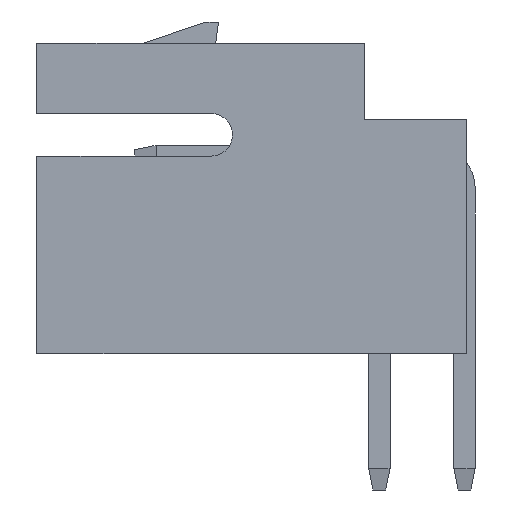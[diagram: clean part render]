
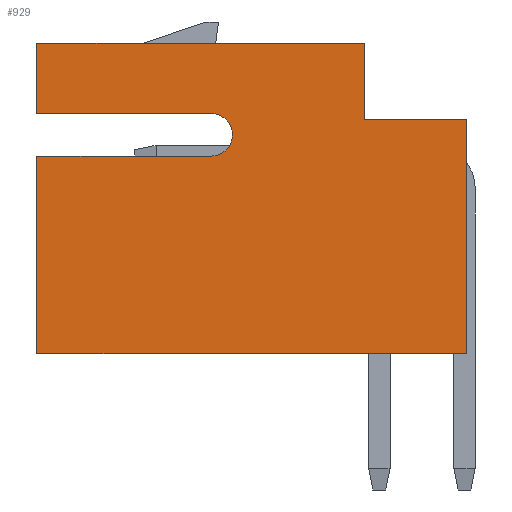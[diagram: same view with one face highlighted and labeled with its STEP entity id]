
A CAD part, left-side view. The second image highlights one B-rep face of the part: STEP entity #929.
In plain terms, the highlighted planar face has unit normal (-1, 0, 0).
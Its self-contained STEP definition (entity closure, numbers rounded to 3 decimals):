
#172=CARTESIAN_POINT('Vertex',(-10.,-2.4,-1.8)) ;
#175=CARTESIAN_POINT('Line Origine',(-10.,-2.4,-4.55)) ;
#179=CARTESIAN_POINT('Vertex',(-10.,-2.4,-7.3)) ;
#198=CARTESIAN_POINT('Vertex',(-10.,0.,-1.8)) ;
#201=CARTESIAN_POINT('Line Origine',(-10.,-1.2,-1.8)) ;
#229=CARTESIAN_POINT('Vertex',(-10.,0.,0.)) ;
#232=CARTESIAN_POINT('Line Origine',(-10.,0.,-0.9)) ;
#865=CARTESIAN_POINT('Axis2P3D Location',(-10.,0.,0.)) ;
#870=CARTESIAN_POINT('Line Origine',(-10.,2.65,-7.3)) ;
#874=CARTESIAN_POINT('Vertex',(-10.,7.7,-7.3)) ;
#877=CARTESIAN_POINT('Line Origine',(-10.,3.85,0.)) ;
#881=CARTESIAN_POINT('Vertex',(-10.,7.7,0.)) ;
#884=CARTESIAN_POINT('Line Origine',(-10.,7.7,-0.825)) ;
#888=CARTESIAN_POINT('Vertex',(-10.,7.7,-1.65)) ;
#891=CARTESIAN_POINT('Line Origine',(-10.,5.65,-1.65)) ;
#895=CARTESIAN_POINT('Vertex',(-10.,3.6,-1.65)) ;
#898=CARTESIAN_POINT('Axis2P3D Location',(-10.,3.6,-2.15)) ;
#902=CARTESIAN_POINT('Vertex',(-10.,3.6,-2.65)) ;
#905=CARTESIAN_POINT('Line Origine',(-10.,5.65,-2.65)) ;
#909=CARTESIAN_POINT('Vertex',(-10.,7.7,-2.65)) ;
#912=CARTESIAN_POINT('Line Origine',(-10.,7.7,-4.975)) ;
#176=DIRECTION('Vector Direction',(0.,0.,-1.)) ;
#202=DIRECTION('Vector Direction',(0.,1.,0.)) ;
#233=DIRECTION('Vector Direction',(0.,0.,1.)) ;
#866=DIRECTION('Axis2P3D Direction',(1.,0.,0.)) ;
#867=DIRECTION('Axis2P3D XDirection',(-0.,-0.,-1.)) ;
#871=DIRECTION('Vector Direction',(0.,-1.,0.)) ;
#878=DIRECTION('Vector Direction',(0.,1.,0.)) ;
#885=DIRECTION('Vector Direction',(0.,0.,-1.)) ;
#892=DIRECTION('Vector Direction',(0.,-1.,0.)) ;
#899=DIRECTION('Axis2P3D Direction',(1.,0.,0.)) ;
#906=DIRECTION('Vector Direction',(0.,1.,0.)) ;
#913=DIRECTION('Vector Direction',(0.,0.,-1.)) ;
#868=AXIS2_PLACEMENT_3D('Plane Axis2P3D',#865,#866,#867) ;
#900=AXIS2_PLACEMENT_3D('Circle Axis2P3D',#898,#899,$) ;
#918=ORIENTED_EDGE('',*,*,#876,.F.) ;
#919=ORIENTED_EDGE('',*,*,#181,.T.) ;
#920=ORIENTED_EDGE('',*,*,#205,.T.) ;
#921=ORIENTED_EDGE('',*,*,#236,.F.) ;
#922=ORIENTED_EDGE('',*,*,#883,.F.) ;
#923=ORIENTED_EDGE('',*,*,#890,.F.) ;
#924=ORIENTED_EDGE('',*,*,#897,.F.) ;
#925=ORIENTED_EDGE('',*,*,#904,.F.) ;
#926=ORIENTED_EDGE('',*,*,#911,.F.) ;
#927=ORIENTED_EDGE('',*,*,#916,.F.) ;
#177=VECTOR('Line Direction',#176,1.) ;
#203=VECTOR('Line Direction',#202,1.) ;
#234=VECTOR('Line Direction',#233,1.) ;
#872=VECTOR('Line Direction',#871,1.) ;
#879=VECTOR('Line Direction',#878,1.) ;
#886=VECTOR('Line Direction',#885,1.) ;
#893=VECTOR('Line Direction',#892,1.) ;
#907=VECTOR('Line Direction',#906,1.) ;
#914=VECTOR('Line Direction',#913,1.) ;
#929=ADVANCED_FACE('\X2\96F64EF651E04F554F53\X0\',(#928),#869,.F.) ;
#901=CIRCLE('generated circle',#900,0.5) ;
#181=EDGE_CURVE('',#180,#173,#178,.F.) ;
#205=EDGE_CURVE('',#173,#199,#204,.T.) ;
#236=EDGE_CURVE('',#230,#199,#235,.F.) ;
#876=EDGE_CURVE('',#180,#875,#873,.F.) ;
#883=EDGE_CURVE('',#882,#230,#880,.F.) ;
#890=EDGE_CURVE('',#889,#882,#887,.F.) ;
#897=EDGE_CURVE('',#896,#889,#894,.F.) ;
#904=EDGE_CURVE('',#903,#896,#901,.F.) ;
#911=EDGE_CURVE('',#910,#903,#908,.F.) ;
#916=EDGE_CURVE('',#875,#910,#915,.F.) ;
#917=EDGE_LOOP('',(#918,#919,#920,#921,#922,#923,#924,#925,#926,#927)) ;
#928=FACE_OUTER_BOUND('',#917,.T.) ;
#178=LINE('Line',#175,#177) ;
#204=LINE('Line',#201,#203) ;
#235=LINE('Line',#232,#234) ;
#873=LINE('Line',#870,#872) ;
#880=LINE('Line',#877,#879) ;
#887=LINE('Line',#884,#886) ;
#894=LINE('Line',#891,#893) ;
#908=LINE('Line',#905,#907) ;
#915=LINE('Line',#912,#914) ;
#869=PLANE('Plane',#868) ;
#173=VERTEX_POINT('',#172) ;
#180=VERTEX_POINT('',#179) ;
#199=VERTEX_POINT('',#198) ;
#230=VERTEX_POINT('',#229) ;
#875=VERTEX_POINT('',#874) ;
#882=VERTEX_POINT('',#881) ;
#889=VERTEX_POINT('',#888) ;
#896=VERTEX_POINT('',#895) ;
#903=VERTEX_POINT('',#902) ;
#910=VERTEX_POINT('',#909) ;
